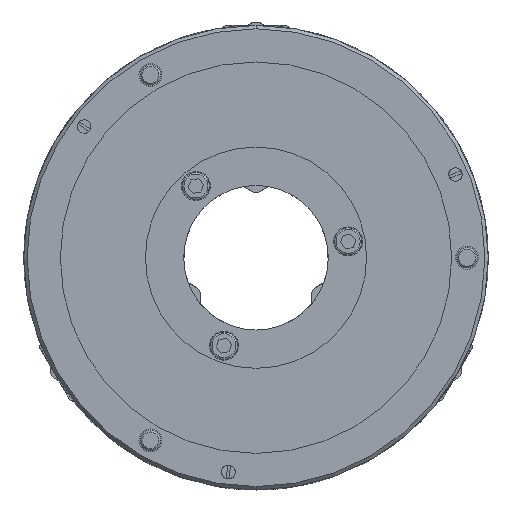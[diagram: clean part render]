
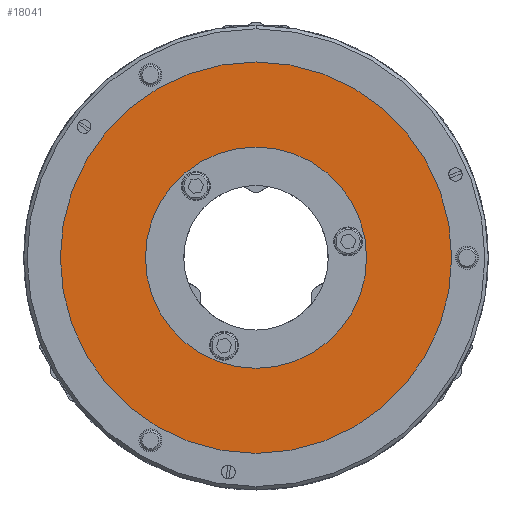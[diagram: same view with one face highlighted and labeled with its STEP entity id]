
A CAD part, front view. The second image highlights one B-rep face of the part: STEP entity #18041.
In plain terms, the highlighted planar face has unit normal (0, -1, 0).
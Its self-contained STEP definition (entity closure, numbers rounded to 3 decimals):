
#932 = CARTESIAN_POINT ( 'NONE',  ( 0., 6., 0. ) ) ;
#2227 = CARTESIAN_POINT ( 'NONE',  ( 0., 6., -65. ) ) ;
#2524 = CARTESIAN_POINT ( 'NONE',  ( 0., 6., 65. ) ) ;
#2686 = DIRECTION ( 'NONE',  ( 0., 0., 1. ) ) ;
#3306 = EDGE_LOOP ( 'NONE', ( #5573, #11353 ) ) ;
#3905 = CARTESIAN_POINT ( 'NONE',  ( 0., 6., 0. ) ) ;
#4993 = DIRECTION ( 'NONE',  ( 0., 0., 1. ) ) ;
#5573 = ORIENTED_EDGE ( 'NONE', *, *, #6670, .F. ) ;
#6670 = EDGE_CURVE ( 'NONE', #14805, #7616, #11914, .T. ) ;
#6916 = DIRECTION ( 'NONE',  ( 0., 1., 0. ) ) ;
#6938 = AXIS2_PLACEMENT_3D ( 'NONE', #932, #6916, #18404 ) ;
#6942 = CARTESIAN_POINT ( 'NONE',  ( 0., 6., -115. ) ) ;
#7171 = VERTEX_POINT ( 'NONE', #2227 ) ;
#7311 = AXIS2_PLACEMENT_3D ( 'NONE', #3905, #18096, #13625 ) ;
#7616 = VERTEX_POINT ( 'NONE', #6942 ) ;
#7786 = EDGE_LOOP ( 'NONE', ( #16879, #8657 ) ) ;
#7855 = CIRCLE ( 'NONE', #6938, 65. ) ;
#8397 = EDGE_CURVE ( 'NONE', #7171, #14696, #18550, .T. ) ;
#8657 = ORIENTED_EDGE ( 'NONE', *, *, #8397, .T. ) ;
#8774 = DIRECTION ( 'NONE',  ( 0., 1., 0. ) ) ;
#8884 = FACE_BOUND ( 'NONE', #7786, .T. ) ;
#10009 = DIRECTION ( 'NONE',  ( 0., 1., 0. ) ) ;
#10334 = CIRCLE ( 'NONE', #7311, 115. ) ;
#10875 = CARTESIAN_POINT ( 'NONE',  ( 0., 6., 0. ) ) ;
#11233 = CARTESIAN_POINT ( 'NONE',  ( 0., 6., 0. ) ) ;
#11353 = ORIENTED_EDGE ( 'NONE', *, *, #15123, .F. ) ;
#11605 = EDGE_CURVE ( 'NONE', #14696, #7171, #7855, .T. ) ;
#11796 = PLANE ( 'NONE',  #17692 ) ;
#11914 = CIRCLE ( 'NONE', #16167, 115. ) ;
#12310 = DIRECTION ( 'NONE',  ( 0., 1., 0. ) ) ;
#13625 = DIRECTION ( 'NONE',  ( 0., 0., 1. ) ) ;
#14475 = FACE_OUTER_BOUND ( 'NONE', #3306, .T. ) ;
#14672 = CARTESIAN_POINT ( 'NONE',  ( 115., 6., 0. ) ) ;
#14696 = VERTEX_POINT ( 'NONE', #2524 ) ;
#14805 = VERTEX_POINT ( 'NONE', #15832 ) ;
#15123 = EDGE_CURVE ( 'NONE', #7616, #14805, #10334, .T. ) ;
#15702 = DIRECTION ( 'NONE',  ( 0., 0., 1. ) ) ;
#15832 = CARTESIAN_POINT ( 'NONE',  ( 0., 6., 115. ) ) ;
#16167 = AXIS2_PLACEMENT_3D ( 'NONE', #10875, #12310, #4993 ) ;
#16879 = ORIENTED_EDGE ( 'NONE', *, *, #11605, .T. ) ;
#17649 = AXIS2_PLACEMENT_3D ( 'NONE', #11233, #8774, #15702 ) ;
#17692 = AXIS2_PLACEMENT_3D ( 'NONE', #14672, #10009, #2686 ) ;
#18041 = ADVANCED_FACE ( 'NONE', ( #14475, #8884 ), #11796, .F. ) ;
#18096 = DIRECTION ( 'NONE',  ( 0., 1., 0. ) ) ;
#18404 = DIRECTION ( 'NONE',  ( 0., 0., 1. ) ) ;
#18550 = CIRCLE ( 'NONE', #17649, 65. ) ;
